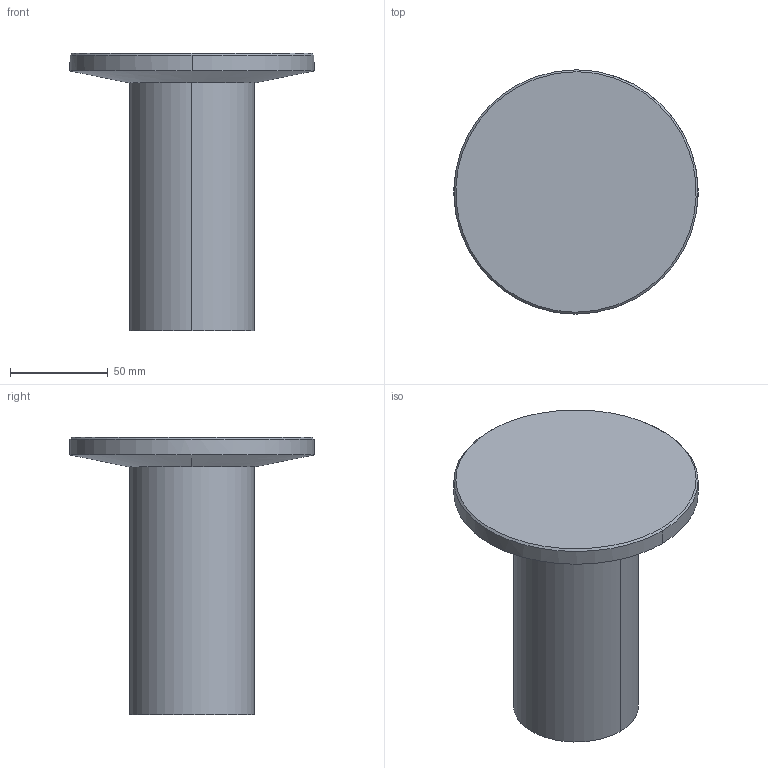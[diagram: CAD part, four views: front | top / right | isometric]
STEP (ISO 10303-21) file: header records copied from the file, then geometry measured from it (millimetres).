
FILE_DESCRIPTION(/* description */ (''),/* implementation_level */ '2;1');
FILE_NAME(/* name */ 'CRCECO~1',/* time_stamp */ '2025-10-16T12:37:21+02:00',/* author */ (''),/* organization */ (''),/* preprocessor_version */ 'ST-DEVELOPER v15',/* originating_system */ '',/* authorisation */ '');
FILE_SCHEMA (('AUTOMOTIVE_DESIGN'));
Length unit declared in the file: millimetre
Products named in the file (1): Document
Bounding box: 125 x 125 x 141.99 mm (x, y, z)
Volume: 399576.3 mm3; surface area: 85585.3 mm2
Topology: 3 solids, 3 shells, 32 faces, 64 edges, 34 vertices
Faces by surface type: bspline 28, plane 4
Entity records: 926 total; most frequent: CARTESIAN_POINT 554, ORIENTED_EDGE 120, EDGE_CURVE 60, VERTEX_POINT 34, ADVANCED_FACE 32, FACE_OUTER_BOUND 32, EDGE_LOOP 32, B_SPLINE_CURVE_WITH_KNOTS 19
